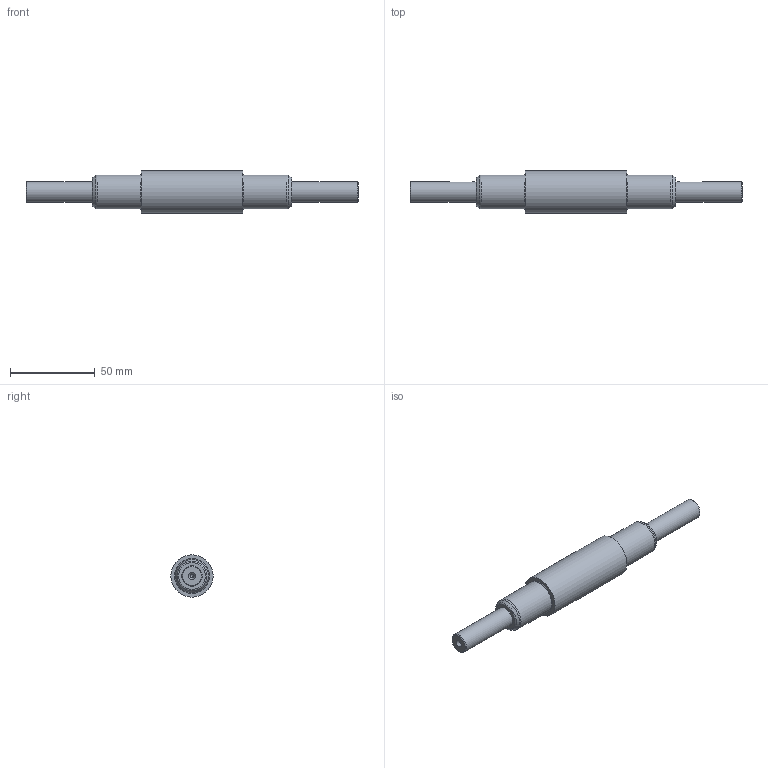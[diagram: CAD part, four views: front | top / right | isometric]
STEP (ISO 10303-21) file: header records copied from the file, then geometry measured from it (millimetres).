
FILE_DESCRIPTION(/* description */ (''),/* implementation_level */ '2;1');
FILE_NAME(/* name */ '',/* time_stamp */ '2026-06-02T17:08:08+09:00',/* author */ ('jhkim'),/* organization */ (''),/* preprocessor_version */ 'ST-DEVELOPER v20.1',/* originating_system */ 'Autodesk Inventor 2027',/* authorisation */ '');
FILE_SCHEMA (('AUTOMOTIVE_DESIGN { 1 0 10303 214 3 1 1 }'));
Length unit declared in the file: millimetre
Products named in the file (1): 축
Bounding box: 196 x 25 x 25 mm (x, y, z)
Volume: 55944.5 mm3; surface area: 12271.1 mm2
Topology: 1 solids, 1 shells, 37 faces, 87 edges, 58 vertices
Faces by surface type: plane 12, cylinder 11, cone 8, torus 6
Full cylindrical faces by diameter (mm): 2 x2, 12 x2, 20 x2, 25 x1
Entity records: 1176 total; most frequent: CARTESIAN_POINT 253, DIRECTION 199, ORIENTED_EDGE 170, EDGE_CURVE 85, AXIS2_PLACEMENT_3D 84, VERTEX_POINT 58, CIRCLE 46, EDGE_LOOP 45
